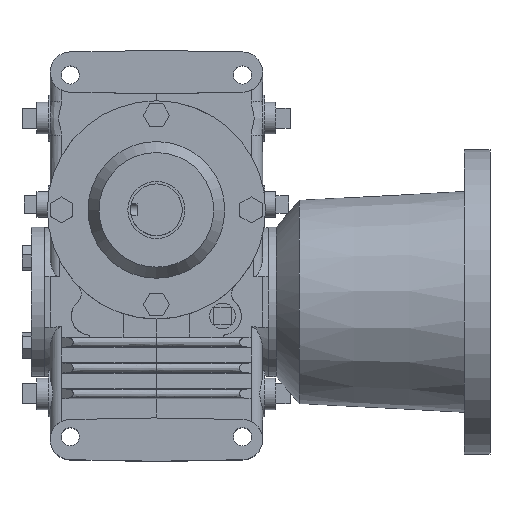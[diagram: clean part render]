
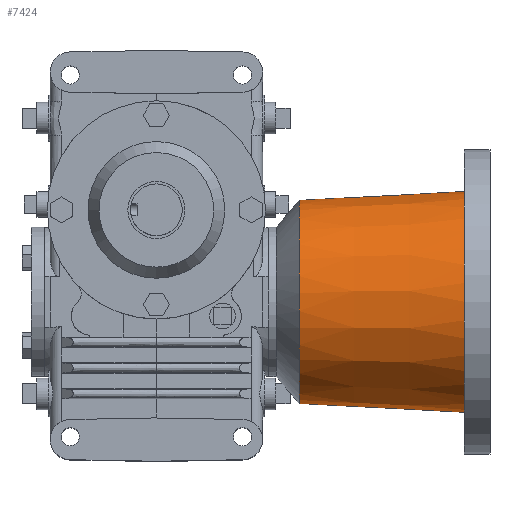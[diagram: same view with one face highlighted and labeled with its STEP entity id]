
A CAD part, top view. The second image highlights one B-rep face of the part: STEP entity #7424.
In plain terms, the highlighted conical face has half-angle 3 degrees and reference radius 61.109 mm.
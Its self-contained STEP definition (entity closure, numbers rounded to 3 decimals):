
#73=CONICAL_SURFACE('',#9171,61.109,0.052);
#190=B_SPLINE_CURVE_WITH_KNOTS('',3,(#14286,#14287,#14288,#14289,#14290,
#14291,#14292,#14293,#14294,#14295),.UNSPECIFIED.,.F.,.F.,(4,1,1,1,1,1,
1,4),(0.,0.002,0.005,0.007,
0.01,0.012,0.015,0.02),
 .UNSPECIFIED.);
#191=B_SPLINE_CURVE_WITH_KNOTS('',3,(#14298,#14299,#14300,#14301),
 .UNSPECIFIED.,.F.,.F.,(4,4),(0.037,0.118),
 .UNSPECIFIED.);
#192=B_SPLINE_CURVE_WITH_KNOTS('',3,(#14305,#14306,#14307,#14308),
 .UNSPECIFIED.,.F.,.F.,(4,4),(0.098,0.179),
 .UNSPECIFIED.);
#3185=ORIENTED_EDGE('',*,*,#4424,.T.);
#3186=ORIENTED_EDGE('',*,*,#4425,.T.);
#3187=ORIENTED_EDGE('',*,*,#4426,.F.);
#3188=ORIENTED_EDGE('',*,*,#4427,.T.);
#3189=ORIENTED_EDGE('',*,*,#4428,.T.);
#4424=EDGE_CURVE('',#5183,#5184,#190,.T.);
#4425=EDGE_CURVE('',#5184,#5185,#191,.T.);
#4426=EDGE_CURVE('',#5186,#5185,#5534,.T.);
#4427=EDGE_CURVE('',#5186,#5183,#192,.T.);
#4428=EDGE_CURVE('',#5187,#5187,#5535,.T.);
#5183=VERTEX_POINT('',#14296);
#5184=VERTEX_POINT('',#14297);
#5185=VERTEX_POINT('',#14302);
#5186=VERTEX_POINT('',#14304);
#5187=VERTEX_POINT('',#14310);
#5534=CIRCLE('',#9172,56.327);
#5535=CIRCLE('',#9173,61.109);
#6019=EDGE_LOOP('',(#3185,#3186,#3187,#3188));
#6020=EDGE_LOOP('',(#3189));
#6624=FACE_BOUND('',#6019,.T.);
#6625=FACE_BOUND('',#6020,.T.);
#7424=ADVANCED_FACE('',(#6624,#6625),#73,.T.);
#9171=AXIS2_PLACEMENT_3D('',#14285,#10919,#10920);
#9172=AXIS2_PLACEMENT_3D('',#14303,#10921,#10922);
#9173=AXIS2_PLACEMENT_3D('',#14309,#10923,#10924);
#10919=DIRECTION('',(1.,0.,0.));
#10920=DIRECTION('',(0.,0.,-1.));
#10921=DIRECTION('',(-1.,0.,0.));
#10922=DIRECTION('',(0.,0.,1.));
#10923=DIRECTION('',(-1.,0.,0.));
#10924=DIRECTION('',(0.,0.,1.));
#14285=CARTESIAN_POINT('',(108.255,0.,0.));
#14286=CARTESIAN_POINT('',(97.384,-6.078,-60.233));
#14287=CARTESIAN_POINT('',(98.224,-6.078,-60.277));
#14288=CARTESIAN_POINT('',(99.876,-5.746,-60.399));
#14289=CARTESIAN_POINT('',(101.988,-4.337,-60.634));
#14290=CARTESIAN_POINT('',(103.4,-2.228,-60.829));
#14291=CARTESIAN_POINT('',(103.9,0.269,-60.898));
#14292=CARTESIAN_POINT('',(103.403,2.766,-60.807));
#14293=CARTESIAN_POINT('',(101.518,5.589,-60.52));
#14294=CARTESIAN_POINT('',(99.063,6.622,-60.264));
#14295=CARTESIAN_POINT('',(97.384,6.622,-60.176));
#14296=CARTESIAN_POINT('',(97.384,-6.078,-60.233));
#14297=CARTESIAN_POINT('',(97.384,6.622,-60.176));
#14298=CARTESIAN_POINT('',(97.384,6.622,-60.176));
#14299=CARTESIAN_POINT('',(70.595,6.622,-58.763));
#14300=CARTESIAN_POINT('',(43.807,6.622,-57.35));
#14301=CARTESIAN_POINT('',(17.018,6.622,-55.937));
#14302=CARTESIAN_POINT('',(17.018,6.622,-55.937));
#14303=CARTESIAN_POINT('',(17.018,0.,0.));
#14304=CARTESIAN_POINT('',(17.018,-6.078,-55.998));
#14305=CARTESIAN_POINT('',(17.018,-6.078,-55.998));
#14306=CARTESIAN_POINT('',(43.807,-6.078,-57.41));
#14307=CARTESIAN_POINT('',(70.595,-6.078,-58.822));
#14308=CARTESIAN_POINT('',(97.384,-6.078,-60.233));
#14309=CARTESIAN_POINT('',(108.255,0.,0.));
#14310=CARTESIAN_POINT('',(108.255,0.,61.109));
